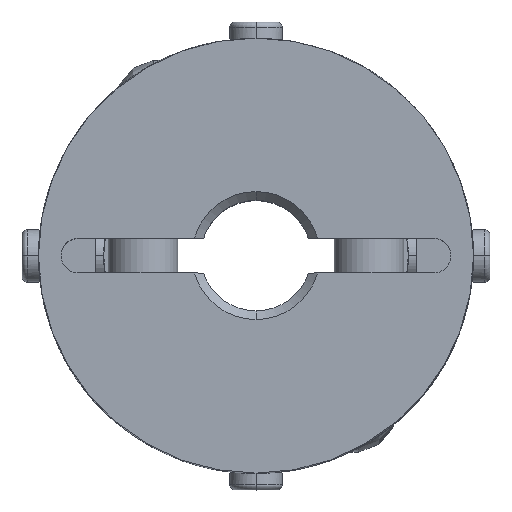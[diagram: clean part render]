
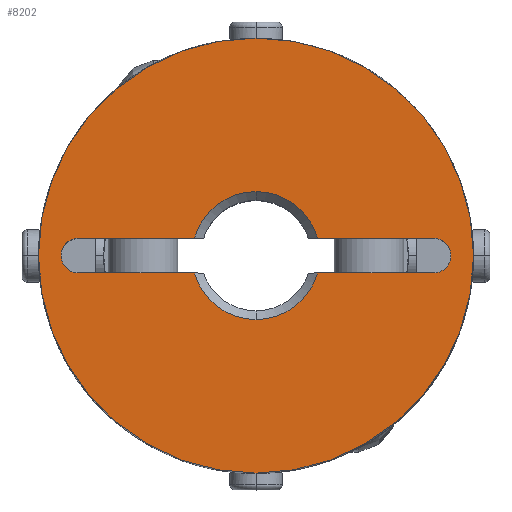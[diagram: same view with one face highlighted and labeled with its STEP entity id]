
A CAD part, top view. The second image highlights one B-rep face of the part: STEP entity #8202.
In plain terms, the highlighted planar face has unit normal (0, 0, 1).
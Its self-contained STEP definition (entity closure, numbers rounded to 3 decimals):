
#885=CARTESIAN_POINT('',(0.,12.5,13.5));
#886=VERTEX_POINT('',#885);
#893=CARTESIAN_POINT('',(0.,-12.5,13.5));
#894=VERTEX_POINT('',#893);
#895=CARTESIAN_POINT('',(0.,0.0,13.5));
#896=DIRECTION('',(0.0,0.0,-1.0));
#897=DIRECTION('',(0.0,-1.0,0.0));
#898=AXIS2_PLACEMENT_3D('',#895,#896,#897);
#899=CIRCLE('',#898,12.5);
#900=EDGE_CURVE('',#886,#894,#899,.T.);
#1153=CARTESIAN_POINT('',(10.907,0.707,13.5));
#1154=VERTEX_POINT('',#1153);
#1170=CARTESIAN_POINT('',(10.2,-1.,13.5));
#1171=VERTEX_POINT('',#1170);
#1178=CARTESIAN_POINT('',(10.2,0.,13.5));
#1179=DIRECTION('',(0.0,0.0,1.0));
#1180=DIRECTION('',(0.707,-0.707,0.0));
#1181=AXIS2_PLACEMENT_3D('',#1178,#1179,#1180);
#1182=CIRCLE('',#1181,1.0);
#1183=EDGE_CURVE('',#1171,#1154,#1182,.T.);
#1195=CARTESIAN_POINT('',(-10.907,-0.707,13.5));
#1196=VERTEX_POINT('',#1195);
#1212=CARTESIAN_POINT('',(-10.2,1.,13.5));
#1213=VERTEX_POINT('',#1212);
#1220=CARTESIAN_POINT('',(-10.2,0.,13.5));
#1221=DIRECTION('',(0.0,0.0,1.0));
#1222=DIRECTION('',(-0.707,0.707,0.0));
#1223=AXIS2_PLACEMENT_3D('',#1220,#1221,#1222);
#1224=CIRCLE('',#1223,1.0);
#1225=EDGE_CURVE('',#1213,#1196,#1224,.T.);
#1235=CARTESIAN_POINT('',(0.,3.675,13.5));
#1236=VERTEX_POINT('',#1235);
#1244=CARTESIAN_POINT('',(3.536,1.,13.5));
#1245=VERTEX_POINT('',#1244);
#1259=CARTESIAN_POINT('',(0.,0.0,13.5));
#1260=DIRECTION('',(0.0,0.0,1.0));
#1261=DIRECTION('',(0.0,1.0,0.0));
#1262=AXIS2_PLACEMENT_3D('',#1259,#1260,#1261);
#1263=CIRCLE('',#1262,3.675);
#1264=EDGE_CURVE('',#1245,#1236,#1263,.T.);
#1276=CARTESIAN_POINT('',(0.,-3.675,13.5));
#1277=VERTEX_POINT('',#1276);
#1293=CARTESIAN_POINT('',(-3.536,-1.,13.5));
#1294=VERTEX_POINT('',#1293);
#1308=CARTESIAN_POINT('',(0.,0.0,13.5));
#1309=DIRECTION('',(0.0,0.0,1.0));
#1310=DIRECTION('',(0.0,-1.0,0.0));
#1311=AXIS2_PLACEMENT_3D('',#1308,#1309,#1310);
#1312=CIRCLE('',#1311,3.675);
#1313=EDGE_CURVE('',#1294,#1277,#1312,.T.);
#7994=CARTESIAN_POINT('',(-10.2,-1.,13.5));
#7995=VERTEX_POINT('',#7994);
#8002=CARTESIAN_POINT('',(-3.536,-1.,13.5));
#8003=DIRECTION('',(-1.0,0.0,0.0));
#8004=VECTOR('',#8003,6.664);
#8005=LINE('',#8002,#8004);
#8006=EDGE_CURVE('',#1294,#7995,#8005,.T.);
#8063=CARTESIAN_POINT('',(-3.536,1.,13.5));
#8064=VERTEX_POINT('',#8063);
#8078=CARTESIAN_POINT('',(-10.2,1.,13.5));
#8079=DIRECTION('',(1.0,0.0,0.0));
#8080=VECTOR('',#8079,6.664);
#8081=LINE('',#8078,#8080);
#8082=EDGE_CURVE('',#1213,#8064,#8081,.T.);
#8099=CARTESIAN_POINT('',(3.536,-1.,13.5));
#8100=VERTEX_POINT('',#8099);
#8101=CARTESIAN_POINT('',(0.,0.0,13.5));
#8102=DIRECTION('',(0.0,0.0,1.0));
#8103=DIRECTION('',(0.0,-1.0,0.0));
#8104=AXIS2_PLACEMENT_3D('',#8101,#8102,#8103);
#8105=CIRCLE('',#8104,3.675);
#8106=EDGE_CURVE('',#1277,#8100,#8105,.T.);
#8133=CARTESIAN_POINT('',(10.2,-1.,13.5));
#8134=DIRECTION('',(-1.0,0.0,0.0));
#8135=VECTOR('',#8134,6.664);
#8136=LINE('',#8133,#8135);
#8137=EDGE_CURVE('',#1171,#8100,#8136,.T.);
#8148=CARTESIAN_POINT('',(0.,-1.136,13.5));
#8149=DIRECTION('',(0.0,0.0,1.0));
#8150=DIRECTION('',(0.0,-1.0,0.0));
#8151=AXIS2_PLACEMENT_3D('',#8148,#8149,#8150);
#8152=PLANE('',#8151);
#8153=CARTESIAN_POINT('',(0.,0.0,13.5));
#8154=DIRECTION('',(0.0,0.0,-1.0));
#8155=DIRECTION('',(0.0,-1.0,0.0));
#8156=AXIS2_PLACEMENT_3D('',#8153,#8154,#8155);
#8157=CIRCLE('',#8156,12.5);
#8158=EDGE_CURVE('',#894,#886,#8157,.T.);
#8159=ORIENTED_EDGE('',*,*,#8158,.F.);
#8160=ORIENTED_EDGE('',*,*,#900,.F.);
#8161=EDGE_LOOP('',(#8159,#8160));
#8162=FACE_OUTER_BOUND('',#8161,.T.);
#8163=ORIENTED_EDGE('',*,*,#1313,.F.);
#8164=ORIENTED_EDGE('',*,*,#8006,.T.);
#8165=CARTESIAN_POINT('',(-10.2,0.,13.5));
#8166=DIRECTION('',(0.0,0.0,1.0));
#8167=DIRECTION('',(-0.707,0.707,0.0));
#8168=AXIS2_PLACEMENT_3D('',#8165,#8166,#8167);
#8169=CIRCLE('',#8168,1.0);
#8170=EDGE_CURVE('',#1196,#7995,#8169,.T.);
#8171=ORIENTED_EDGE('',*,*,#8170,.F.);
#8172=ORIENTED_EDGE('',*,*,#1225,.F.);
#8173=ORIENTED_EDGE('',*,*,#8082,.T.);
#8174=CARTESIAN_POINT('',(0.,0.0,13.5));
#8175=DIRECTION('',(0.0,0.0,1.0));
#8176=DIRECTION('',(0.0,1.0,0.0));
#8177=AXIS2_PLACEMENT_3D('',#8174,#8175,#8176);
#8178=CIRCLE('',#8177,3.675);
#8179=EDGE_CURVE('',#1236,#8064,#8178,.T.);
#8180=ORIENTED_EDGE('',*,*,#8179,.F.);
#8181=ORIENTED_EDGE('',*,*,#1264,.F.);
#8182=CARTESIAN_POINT('',(10.2,1.,13.5));
#8183=VERTEX_POINT('',#8182);
#8184=CARTESIAN_POINT('',(3.536,1.,13.5));
#8185=DIRECTION('',(1.0,0.0,0.0));
#8186=VECTOR('',#8185,6.664);
#8187=LINE('',#8184,#8186);
#8188=EDGE_CURVE('',#1245,#8183,#8187,.T.);
#8189=ORIENTED_EDGE('',*,*,#8188,.T.);
#8190=CARTESIAN_POINT('',(10.2,0.,13.5));
#8191=DIRECTION('',(0.0,0.0,1.0));
#8192=DIRECTION('',(0.707,-0.707,0.0));
#8193=AXIS2_PLACEMENT_3D('',#8190,#8191,#8192);
#8194=CIRCLE('',#8193,1.0);
#8195=EDGE_CURVE('',#1154,#8183,#8194,.T.);
#8196=ORIENTED_EDGE('',*,*,#8195,.F.);
#8197=ORIENTED_EDGE('',*,*,#1183,.F.);
#8198=ORIENTED_EDGE('',*,*,#8137,.T.);
#8199=ORIENTED_EDGE('',*,*,#8106,.F.);
#8200=EDGE_LOOP('',(#8163,#8164,#8171,#8172,#8173,#8180,#8181,#8189,#8196,#8197,#8198,#8199));
#8201=FACE_BOUND('',#8200,.T.);
#8202=ADVANCED_FACE('',(#8162,#8201),#8152,.T.);
